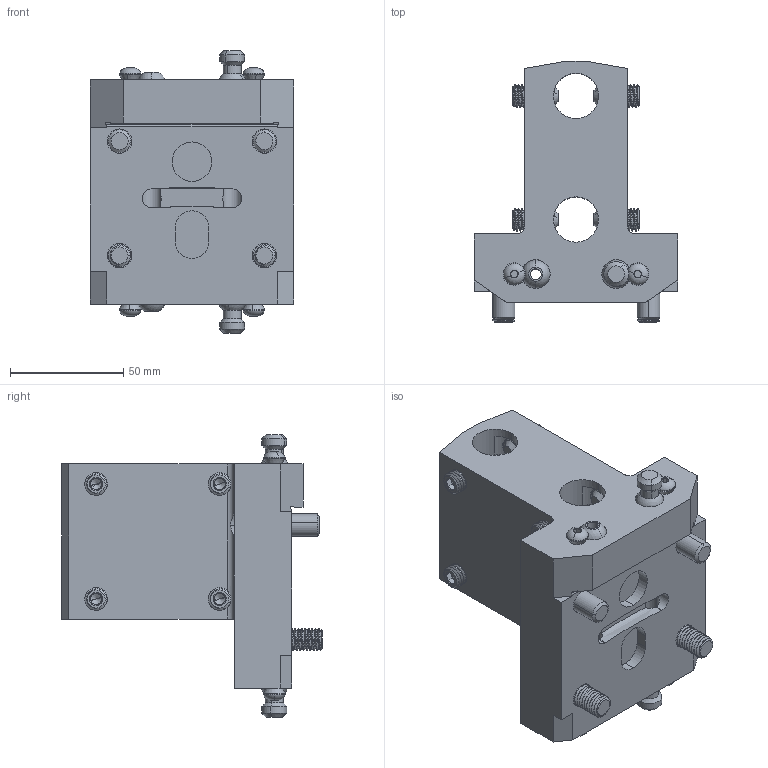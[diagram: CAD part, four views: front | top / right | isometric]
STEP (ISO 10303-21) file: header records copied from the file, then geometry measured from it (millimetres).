
FILE_DESCRIPTION (( 'STEP AP203' ), '1' );
FILE_NAME ('04-0795.STEP', '2022-07-12T16:15:57', ( '' ), ( '' ), 'SwSTEP 2.0', 'SolidWorks 2021', '' );
FILE_SCHEMA (( 'CONFIG_CONTROL_DESIGN' ));
Length unit declared in the file: inch
Products named in the file (11): 40-0230_40-0230; 04-0795; 20-3137; 40-0011_40-0011; 20-10455; 20-2077; 44-0034_44-0034; 22-8749; 57-0026; 10000015545; 40-0003_40-0003
Assembly tree (30 placements, depth 3):
  04-0795
    10000015545
      20-10455
      57-0026  x4
      22-8749  x4
      20-3137  x2
      44-0034_44-0034  x8
      40-0011_40-0011  x2
      40-0230_40-0230  x2
      40-0003_40-0003  x4
      20-2077  x2
Bounding box: 89.92 x 115.25 x 124.8 mm (x, y, z)
Volume: 387680.5 mm3; surface area: 88693.9 mm2
Topology: 29 solids, 31 shells, 1406 faces, 3753 edges, 2388 vertices
Faces by surface type: cylinder 851, plane 266, cone 224, bspline 28, torus 25, sphere 12
Entity records: 21201 total; most frequent: CARTESIAN_POINT 8662, ORIENTED_EDGE 2458, DIRECTION 2143, EDGE_CURVE 1229, AXIS2_PLACEMENT_3D 838, VERTEX_POINT 790, EDGE_LOOP 515, LINE 467
